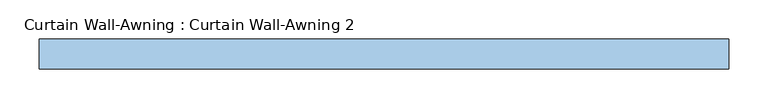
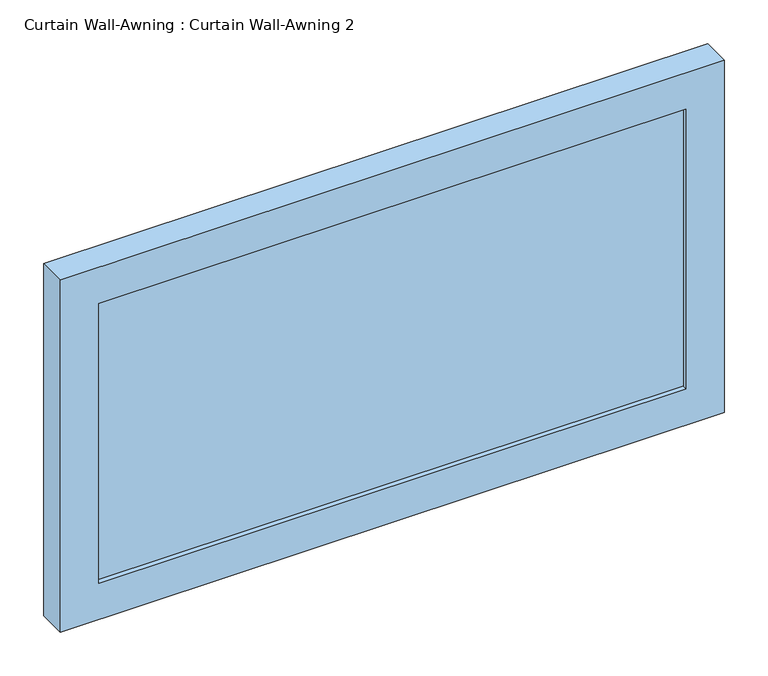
"""IFC4 building model written with IfcOpenShell, lengths in millimetres: window geometry, Curtain Wall-Awning : Curtain Wall-Awning 2."""

from ifc_helpers import new_model, si_unit, frame, origin, place, context, project, spatial, polyline, outline, extrude, source, transform, mapped, element, save


def curtain_wall_awning_curtain_wall_awning_2_62806ce6(model_context):
    return source(origin(), model_context, "Body", "SweptSolid", [
        extrude(outline(polyline([(388.4083333, 19.05), (388.4083333, 6.35), (-388.4083333, 6.35), (-388.4083333, 19.05), (388.4083333, 19.05)])), frame((0.0, 0.0, 50.8), z_axis=(0.0, 0.0, 1.0), x_axis=(1.0, 0.0, 0.0)), (0.0, 0.0, 1.0), 391.4821279),
        extrude(outline(polyline([(493.0821279, -439.2083333), (0.0, -439.2083333), (0.0, 439.2083333), (493.0821279, 439.2083333), (493.0821279, -439.2083333)]), holes=[polyline([(442.2821279, -388.4083333), (442.2821279, 388.4083333), (50.8, 388.4083333), (50.8, -388.4083333), (442.2821279, -388.4083333)])]), frame((0.0, 0.0, 0.0), z_axis=(0.0, 1.0, 0.0), x_axis=(0.0, 0.0, 1.0)), (0.0, 0.0, 1.0), 38.1),
    ])


if __name__ == "__main__":
    model = new_model("IFC4")
    model_context = context("Model", 3, world=origin())
    ifc_project = project(units=[si_unit("LENGTHUNIT", "METRE", prefix="MILLI")], contexts=[model_context])
    site = spatial("IfcSite", under=ifc_project)
    building = spatial("IfcBuilding", under=site)
    placement = place(None, origin())
    curtain_wall_awning_curtain_wall_awning_2_shape = curtain_wall_awning_curtain_wall_awning_2_62806ce6(model_context)
    element("IfcWindow", 1, ObjectType="Curtain Wall-Awning : Curtain Wall-Awning 2", at=placement, inside=building, context=model_context, shape_type="MappedRepresentation", body=[
        mapped(curtain_wall_awning_curtain_wall_awning_2_shape, transform((0.0, 0.0, 0.0), x_axis=(1.0, 0.0, 0.0), y_axis=(0.0, 1.0, 0.0), z_axis=(0.0, 0.0, 1.0))),
    ])
    save(model, "model.ifc")
